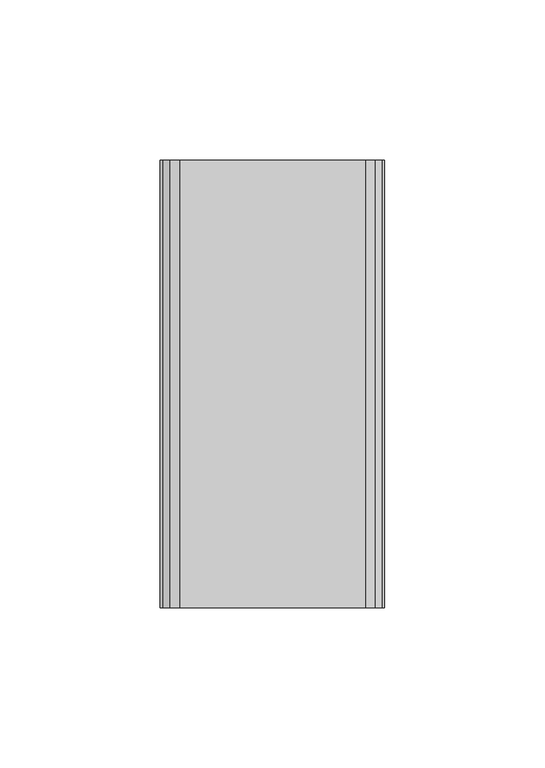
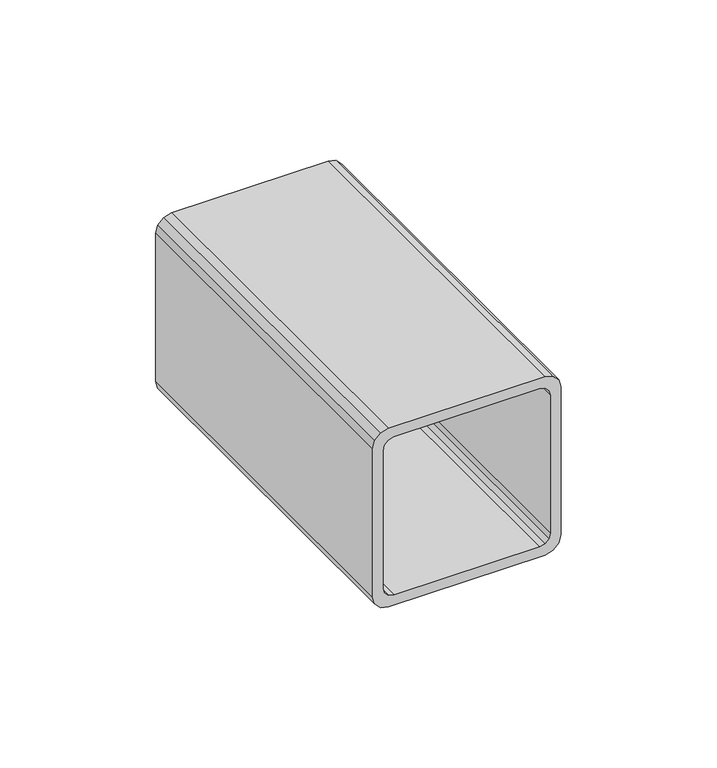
"""IFC4 building model written with IfcOpenShell, lengths in millimetres: beam geometry,  142134 :  142134."""

import ifcopenshell
import ifcopenshell.guid

model = None  # the IFC model being written
_history = None  # IfcOwnerHistory: only IFC2X3 demands one
_inside = {}  # id of a spatial element -> (the spatial element, [elements in it])
_under = {}  # id of a project, library or spatial element -> (it, [spatial elements below it])
_declared = {}  # id of a project -> (the project, [libraries it declares])
_typed = {}  # id of a type object -> (the type object, [elements of that type])
_made_of = {}  # id of a material, layer set ... -> (it, [elements and type objects made of it])


def new_model(schema):
    """Start an empty IFC model of exactly this schema.

    Asked for "IFC4X3", IfcOpenShell would pick the latest addendum, in which some entities
    have other attributes; the version numbers below select the first issue.
    IFC2X3 requires an IfcOwnerHistory on every rooted entity: one is made here for all.
    """
    global model, _history
    if schema == "IFC4X3":
        model = ifcopenshell.file(schema_version=(4, 3, 0, 0))
    else:
        model = ifcopenshell.file(schema=schema)
    _inside.clear()
    _under.clear()
    _declared.clear()
    _typed.clear()
    _made_of.clear()
    _history = None
    if model.schema == "IFC2X3":
        org = make("IfcOrganization", Name="unknown")
        user = make(
            "IfcPersonAndOrganization",
            ThePerson=make("IfcPerson", FamilyName="unknown"),
            TheOrganization=org,
        )
        app = make(
            "IfcApplication",
            ApplicationDeveloper=org,
            Version="unknown",
            ApplicationFullName="unknown",
            ApplicationIdentifier="unknown",
        )
        _history = make(
            "IfcOwnerHistory",
            OwningUser=user,
            OwningApplication=app,
            ChangeAction="ADDED",
            CreationDate=0,
        )
    return model


def make(cls, **values):
    """One entity of the class cls with the attributes given. An attribute that is None is left unset."""
    return model.create_entity(
        cls, **{name: value for name, value in values.items() if value is not None}
    )


def rooted(cls, **values):
    """An entity with a GlobalId (a new one), such as an element, a storey or a relation."""
    return make(cls, GlobalId=ifcopenshell.guid.new(), OwnerHistory=_history, **values)


def si_unit(unit_type, name, prefix=None):
    """IfcSIUnit, for example si_unit("LENGTHUNIT", "METRE", prefix="MILLI")."""
    return make("IfcSIUnit", UnitType=unit_type, Prefix=prefix, Name=name)


def assignment(units):
    """IfcUnitAssignment: the units of a project."""
    return None if units is None else make("IfcUnitAssignment", Units=units)


def point(xyz):
    """IfcCartesianPoint."""
    return None if xyz is None else make("IfcCartesianPoint", Coordinates=xyz)


def direction(xyz):
    """IfcDirection."""
    return None if xyz is None else make("IfcDirection", DirectionRatios=xyz)


def frame(location, z_axis=None, x_axis=None):
    """IfcAxis2Placement3D, a coordinate frame: its origin and axes. An axis left out is left unset."""
    return make(
        "IfcAxis2Placement3D",
        Location=point(location),
        Axis=direction(z_axis),
        RefDirection=direction(x_axis),
    )


def origin():
    """The frame at (0, 0, 0) with its axes left unset."""
    return frame((0.0, 0.0, 0.0))


def place(relative_to, where):
    """IfcLocalPlacement: puts the frame where relative to a parent placement (None: the world)."""
    return make(
        "IfcLocalPlacement", PlacementRelTo=relative_to, RelativePlacement=where
    )


def context(
    kind, dimensions, precision=None, world=None, true_north=None, identifier=None
):
    """IfcGeometricRepresentationContext, for example the 3D "Model" context."""
    return make(
        "IfcGeometricRepresentationContext",
        ContextIdentifier=identifier,
        ContextType=kind,
        CoordinateSpaceDimension=dimensions,
        Precision=precision,
        WorldCoordinateSystem=world,
        TrueNorth=true_north,
    )


def project(units=None, contexts=None):
    """IfcProject with its units and contexts."""
    return rooted(
        "IfcProject",
        Name="project",
        RepresentationContexts=contexts,
        UnitsInContext=assignment(units),
    )


def spatial(cls, under=None, at=None, **own):
    """A site, building, storey or space (cls), placed at a placement, below another one or the project."""
    s = rooted(cls, ObjectPlacement=at, **own)
    if under is not None:
        _under.setdefault(under.id(), (under, []))[1].append(s)
    return s


def polyline(points):
    """IfcPolyline through the points."""
    return make("IfcPolyline", Points=[point(p) for p in points])


def outline(outer, holes=None, kind="AREA"):
    """IfcArbitraryClosedProfileDef: a profile drawn as a closed curve; with holes, ...WithVoids."""
    if holes is None:
        return make("IfcArbitraryClosedProfileDef", ProfileType=kind, OuterCurve=outer)
    return make(
        "IfcArbitraryProfileDefWithVoids",
        ProfileType=kind,
        OuterCurve=outer,
        InnerCurves=holes,
    )


def extrude(swept, where, along, depth):
    """IfcExtrudedAreaSolid: the profile swept, set in the frame where, extruded along a direction by depth."""
    return make(
        "IfcExtrudedAreaSolid",
        SweptArea=swept,
        Position=where,
        ExtrudedDirection=direction(along),
        Depth=depth,
    )


def shape(context_of_items, identifier, shape_type, items):
    """IfcShapeRepresentation: the items that make up one representation, for example the "Body"."""
    return make(
        "IfcShapeRepresentation",
        ContextOfItems=context_of_items,
        RepresentationIdentifier=identifier,
        RepresentationType=shape_type,
        Items=items,
    )


def source(mapping_origin, context_of_items, identifier, shape_type, items):
    """IfcRepresentationMap: a shape defined once, which mapped items show again and again."""
    return make(
        "IfcRepresentationMap",
        MappingOrigin=mapping_origin,
        MappedRepresentation=shape(context_of_items, identifier, shape_type, items),
    )


def transform(
    local_origin,
    x_axis=None,
    y_axis=None,
    z_axis=None,
    scale=None,
    scale2=None,
    scale3=None,
    uniform=True,
):
    """IfcCartesianTransformationOperator3D, or its non-uniform kind. x_axis, y_axis, z_axis: its Axis1, 2, 3."""
    if uniform:
        return make(
            "IfcCartesianTransformationOperator3D",
            Axis1=direction(x_axis),
            Axis2=direction(y_axis),
            LocalOrigin=point(local_origin),
            Scale=scale,
            Axis3=direction(z_axis),
        )
    return make(
        "IfcCartesianTransformationOperator3DnonUniform",
        Axis1=direction(x_axis),
        Axis2=direction(y_axis),
        LocalOrigin=point(local_origin),
        Scale=scale,
        Axis3=direction(z_axis),
        Scale2=scale2,
        Scale3=scale3,
    )


def mapped(mapping_source, mapping_target):
    """IfcMappedItem: shows the shape of a source again, moved by a transform."""
    return make(
        "IfcMappedItem", MappingSource=mapping_source, MappingTarget=mapping_target
    )


def made_of(thing, what):
    """Note that an element or type object is made of a material, layer set ...; save() writes the relation."""
    if what is not None:
        _made_of.setdefault(what.id(), (what, []))[1].append(thing)
    return thing


def element(
    cls,
    number,
    at=None,
    inside=None,
    cuts=None,
    type_object=None,
    material=None,
    context=None,
    identifier="Body",
    shape_type=None,
    held_by="IfcProductDefinitionShape",
    body=None,
    shapes=None,
    **own,
):
    """One element of the class cls, such as IfcWall. Its Tag is "e" and its number.

    at: its placement. inside: the storey or other place that contains it. cuts: it is an
    opening in that element (IfcRelVoidsElement). A single representation is given by context,
    identifier, shape_type and body (its items); several are given by shapes. held_by: the class
    of the entity that holds the representations. save() writes the other relations.
    """
    e = rooted(cls, Tag="e%d" % number, ObjectPlacement=at, **own)
    if body is not None:
        shapes = [shape(context, identifier, shape_type, body)]
    if shapes is not None:
        e.Representation = make(held_by, Representations=shapes)
    if inside is not None:
        _inside.setdefault(inside.id(), (inside, []))[1].append(e)
    if cuts is not None:
        rooted(
            "IfcRelVoidsElement", RelatingBuildingElement=cuts, RelatedOpeningElement=e
        )
    if type_object is not None:
        _typed.setdefault(type_object.id(), (type_object, []))[1].append(e)
    return made_of(e, material)


def aggregate(whole, parts):
    """IfcRelAggregates: a whole, such as a stair, and the parts it consists of."""
    return rooted("IfcRelAggregates", RelatingObject=whole, RelatedObjects=parts)


def save(model, path):
    """Write the relations noted so far, then the file.

    IfcRelAggregates (storeys below a building ...), IfcRelContainedInSpatialStructure (elements
    in a storey), IfcRelDefinesByType, IfcRelAssociatesMaterial and IfcRelDeclares: one each for
    every whole, place, type object, material and project.
    """
    for whole, parts in _under.values():
        aggregate(whole, parts)
    for where, things in _inside.values():
        rooted(
            "IfcRelContainedInSpatialStructure",
            RelatedElements=things,
            RelatingStructure=where,
        )
    for kind, things in _typed.values():
        rooted("IfcRelDefinesByType", RelatedObjects=things, RelatingType=kind)
    for what, things in _made_of.values():
        rooted("IfcRelAssociatesMaterial", RelatedObjects=things, RelatingMaterial=what)
    for by, libraries in _declared.values():
        rooted("IfcRelDeclares", RelatingContext=by, RelatedDefinitions=libraries)
    model.write(path)


def beam_5e6e5a75(model_context):
    return source(origin(), model_context, "Body", "SweptSolid", [
        extrude(outline(polyline([(1590.9478709, 15154.9999999), (1587.9478709, 15155.8038474), (1585.7517184, 15157.9999999), (1584.9478709, 15160.9999999), (1584.9478709, 15218.9999999), (1585.7517184, 15221.9999999), (1587.9478709, 15224.1961523), (1590.9478709, 15224.9999999), (1648.9478709, 15224.9999999), (1651.9478709, 15224.1961523), (1654.1440233, 15221.9999999), (1654.9478709, 15218.9999999), (1654.9478709, 15160.9999999), (1654.1440233, 15157.9999999), (1651.9478709, 15155.8038474), (1648.9478709, 15154.9999999), (1590.9478709, 15154.9999999)]), holes=[polyline([(1646.9478709, 15158.9999999), (1648.9478709, 15159.5358983), (1650.4119725, 15160.9999999), (1650.9478709, 15162.9999999), (1650.9478709, 15216.9999999), (1650.4119725, 15218.9999999), (1648.9478709, 15220.4641015), (1646.9478709, 15220.9999999), (1592.9478709, 15220.9999999), (1590.9478709, 15220.4641015), (1589.4837692, 15218.9999999), (1588.9478709, 15216.9999999), (1588.9478709, 15162.9999999), (1589.4837692, 15160.9999999), (1590.9478709, 15159.5358983), (1592.9478709, 15158.9999999), (1646.9478709, 15158.9999999)])]), frame((0.0, -114.45, 0.0), z_axis=(0.0, 1.0, 0.0), x_axis=(0.0, 0.0, 1.0)), (0.0, 0.0, 1.0), 139.45),
    ])


if __name__ == "__main__":
    model = new_model("IFC4")
    model_context = context("Model", 3, world=origin())
    ifc_project = project(units=[si_unit("LENGTHUNIT", "METRE", prefix="MILLI")], contexts=[model_context])
    site = spatial("IfcSite", under=ifc_project)
    building = spatial("IfcBuilding", under=site)
    placement = place(None, origin())
    beam_shape = beam_5e6e5a75(model_context)
    element("IfcBeam", 1, ObjectType=" 142134 :  142134", at=placement, inside=building, context=model_context, shape_type="MappedRepresentation", body=[
        mapped(beam_shape, transform((0.0, 0.0, 0.0), x_axis=(1.0, 0.0, 0.0), y_axis=(0.0, 1.0, 0.0), z_axis=(0.0, 0.0, 1.0))),
    ])
    save(model, "model.ifc")
